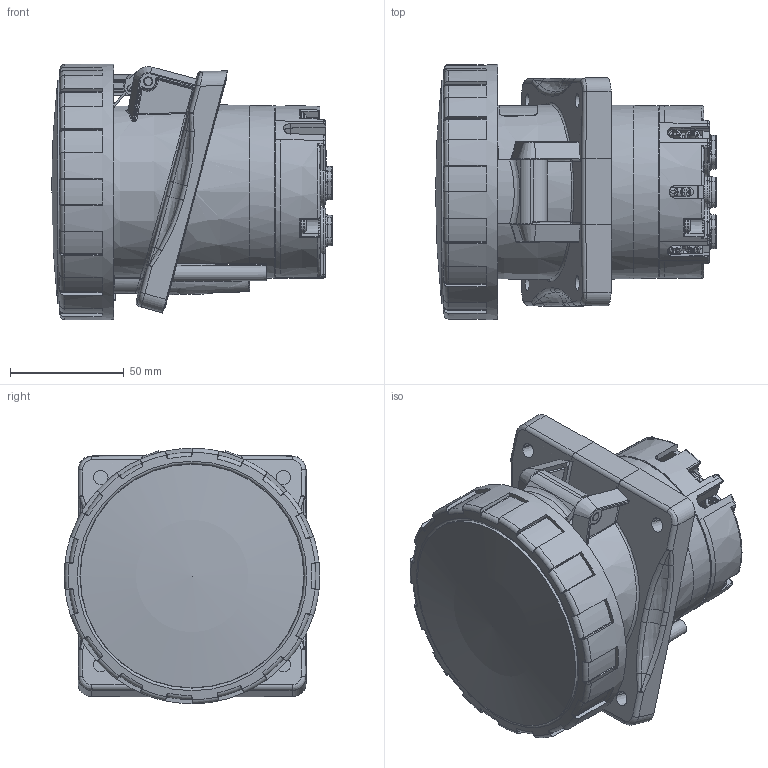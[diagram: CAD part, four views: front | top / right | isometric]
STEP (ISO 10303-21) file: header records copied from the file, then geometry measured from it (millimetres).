
FILE_DESCRIPTION(/* description */ (''),/* implementation_level */ '2;1');
FILE_NAME(/* name */ '4000669.stp',/* time_stamp */ '2017-06-19T08:20:51+02:00',/* author */ (''),/* organization */ (''),/* preprocessor_version */ 'ST-DEVELOPER v16',/* originating_system */ 'SIEMENS PLM Software NX 11.0',/* authorisation */ '');
FILE_SCHEMA (('AUTOMOTIVE_DESIGN { 1 0 10303 214 3 1 1 1 }'));
Length unit declared in the file: millimetre
Products named in the file (1): 4000669_LINKEDEXT_jt
Bounding box: 123.16 x 111.97 x 112 mm (x, y, z)
Surface area: 116676.7 mm2 (no closed solid volume)
Topology: 0 solids, 98 shells, 1061 faces, 4112 edges, 3020 vertices
Faces by surface type: plane 316, cylinder 299, bspline 241, torus 114, cone 79, sphere 8, revolution 4
Full cylindrical faces by diameter (mm): 1.1 x1, 4 x2, 5 x2, 7 x4, 7.7 x4, 8 x1, 98.1 x1, 103 x1, 112 x1
Entity records: 68957 total; most frequent: CARTESIAN_POINT 30008, ORIENTED_EDGE 5986, DIRECTION 5816, EDGE_CURVE 4043, VERTEX_POINT 3012, AXIS2_PLACEMENT_3D 2212, LINE 1388, VECTOR 1388
